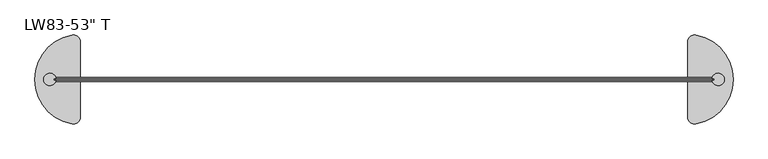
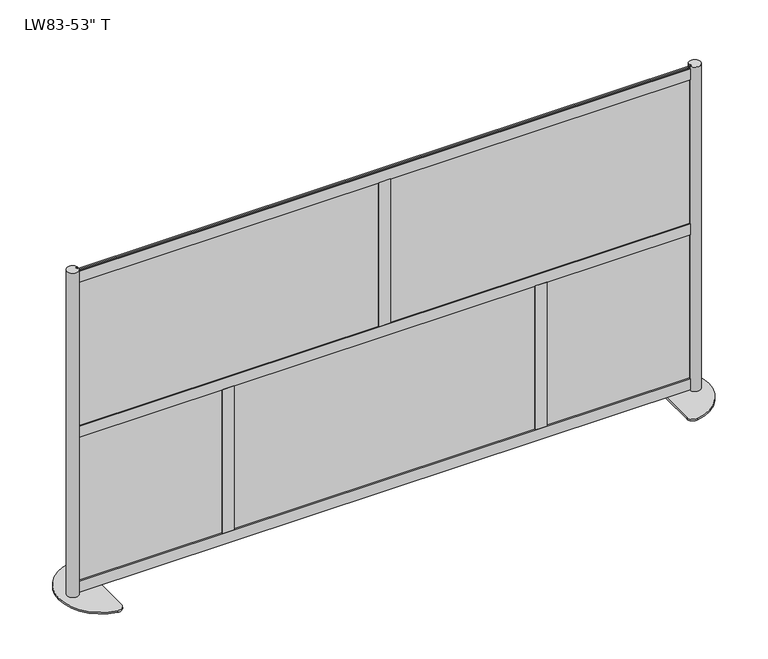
"""IFC4 building model written with IfcOpenShell, lengths in millimetres: furniture geometry."""

from ifc_helpers import new_model, si_unit, point, frame, frame_2d, origin, origin_with_axes, place, context, project, spatial, polyline, circle_curve, trimmed, segment, composite_curve, outline, extrude, source, transform, mapped, element, save


def furniture_a3e9a44e(model_context):
    return source(origin(), model_context, "Body", "SweptSolid", [
        extrude(outline(polyline([(596.8955274, -1.5875), (-592.1419726, -1.5875), (-592.1419726, 1.5875), (596.8955274, 1.5875), (596.8955274, -1.5875)])), frame((0.0, 0.0, 49.2633), z_axis=(0.0, 0.0, 1.0), x_axis=(1.0, 0.0, 0.0)), (0.0, 0.0, 1.0), 608.965),
        extrude(outline(polyline([(1208.4321897, -1.5875), (19.3946897, -1.5875), (19.3946897, 1.5875), (1208.4321897, 1.5875), (1208.4321897, -1.5875)])), frame((0.0, 0.0, 689.2671), z_axis=(0.0, 0.0, 1.0), x_axis=(1.0, 0.0, 0.0)), (0.0, 0.0, 1.0), 608.965),
        extrude(outline(polyline([(-14.6411349, -1.5875), (-1203.6786349, -1.5875), (-1203.6786349, 1.5875), (-14.6411349, 1.5875), (-14.6411349, -1.5875)])), frame((0.0, 0.0, 689.2671), z_axis=(0.0, 0.0, 1.0), x_axis=(1.0, 0.0, 0.0)), (0.0, 0.0, 1.0), 608.965),
        extrude(outline(polyline([(625.9190822, 1.5875), (1203.769083, 1.5875), (1203.7689093, -1.5875), (625.9189085, -1.5875), (625.9190822, 1.5875)])), frame((0.0, 0.0, 49.2633), z_axis=(0.0, 0.0, 1.0), x_axis=(1.0, 0.0, 0.0)), (0.0, 0.0, 1.0), 608.965),
        extrude(outline(polyline([(-1202.9125801, 1.5875), (-625.0625793, 1.5875), (-625.0627529, -1.5875), (-1202.9127538, -1.5875), (-1202.9125801, 1.5875)])), frame((0.0, 0.0, 49.2633), z_axis=(0.0, 0.0, 1.0), x_axis=(1.0, 0.0, 0.0)), (0.0, 0.0, 1.0), 608.965),
        extrude(outline(polyline([(22.6314, 3.556), (15.5194, 3.556), (15.5194, -3.556), (22.6314, -3.556), (22.6314, -7.6327), (-22.6314, -7.6327), (-22.6314, -3.556), (-15.5194, -3.556), (-15.5194, 3.556), (-22.6314, 3.556), (-22.6314, 7.6327), (22.6314, 7.6327), (22.6314, 3.556)])), frame((0.0, 0.0, 696.3791), z_axis=(0.0, 0.0, 1.0), x_axis=(1.0, 0.0, 0.0)), (0.0, 0.0, 1.0), 594.741),
        extrude(outline(polyline([(634.1680623, 3.556), (627.0560623, 3.556), (627.0560623, -3.556), (634.1680623, -3.556), (634.1680623, -7.6327), (588.9052623, -7.6327), (588.9052623, -3.556), (596.0172623, -3.556), (596.0172623, 3.556), (588.9052623, 3.556), (588.9052623, 7.6327), (634.1680623, 7.6327), (634.1680623, 3.556)])), frame((0.0, 0.0, 56.3753), z_axis=(0.0, 0.0, 1.0), x_axis=(1.0, 0.0, 0.0)), (0.0, 0.0, 1.0), 594.741),
        extrude(outline(polyline([(-634.1680623, 3.556), (-634.1680623, 7.6327), (-588.9052623, 7.6327), (-588.9052623, 3.556), (-596.0172623, 3.556), (-596.0172623, -3.556), (-588.9052623, -3.556), (-588.9052623, -7.6327), (-634.1680623, -7.6327), (-634.1680623, -3.556), (-627.0560623, -3.556), (-627.0560623, 3.556), (-634.1680623, 3.556)])), frame((0.0, 0.0, 56.3753), z_axis=(0.0, 0.0, 1.0), x_axis=(1.0, 0.0, 0.0)), (0.0, 0.0, 1.0), 594.741),
        extrude(outline(polyline([(3.556, 651.1163), (3.556, 658.2283), (-3.556, 658.2283), (-3.556, 651.1163), (-7.6327, 651.1163), (-7.6327, 696.3791), (-3.556, 696.3791), (-3.556, 689.2671), (3.556, 689.2671), (3.556, 696.3791), (7.6327, 696.3791), (7.6327, 651.1163), (3.556, 651.1163)])), frame((-1194.5874, 0.0, 0.0), z_axis=(1.0, 0.0, 0.0), x_axis=(0.0, 1.0, 0.0)), (0.0, 0.0, 1.0), 2389.1748),
        extrude(outline(polyline([(3.556, 11.1125), (3.556, 18.2245), (-3.556, 18.2245), (-3.556, 11.1125), (-7.6327, 11.1125), (-7.6327, 56.3753), (-3.556, 56.3753), (-3.556, 49.2633), (3.556, 49.2633), (3.556, 56.3753), (7.6327, 56.3753), (7.6327, 11.1125), (3.556, 11.1125)])), frame((-1194.6636, 0.0, 0.0), z_axis=(1.0, 0.0, 0.0), x_axis=(0.0, 1.0, 0.0)), (0.0, 0.0, 1.0), 2389.3272),
        extrude(outline(polyline([(3.556, 1291.1200292), (3.556, 1298.2320292), (-3.556, 1298.2320292), (-3.556, 1291.1200292), (-7.6327, 1291.1200292), (-7.6327, 1336.3828292), (-3.556, 1336.3828292), (-3.556, 1329.2708292), (3.556, 1329.2708292), (3.556, 1336.3828292), (7.6327, 1336.3828292), (7.6327, 1291.1200292), (3.556, 1291.1200292)])), frame((-1194.6636, 0.0, 0.0), z_axis=(1.0, 0.0, 0.0), x_axis=(0.0, 1.0, 0.0)), (0.0, 0.0, 1.0), 2389.3272),
        extrude(outline(composite_curve([segment(polyline([(1194.6636, -7.7568093), (1194.6636, -3.556), (1201.7756, -3.556), (1201.7756, 3.556), (1194.6636, 3.556), (1194.6636, 7.7568093)]), True, "CONTINUOUS"), segment(trimmed(circle_curve(frame_2d((1215.7665837, 0.0)), 22.4834163), [point((1194.6636, 7.7568093))], [point((1194.6636, -7.7568093))], False, "CARTESIAN"), True, "CONTINUOUS")], self_intersect=False)), frame((0.0, 0.0, 6.35), z_axis=(0.0, 0.0, 1.0), x_axis=(1.0, 0.0, 0.0)), (0.0, 0.0, 1.0), 1339.85),
        extrude(outline(composite_curve([segment(polyline([(1104.9, -137.3715036), (1104.9, 137.3715036)]), True, "CONTINUOUS"), segment(trimmed(circle_curve(frame_2d((1130.3, 137.3715036)), 25.4), [point((1104.9, 137.3715036))], [point((1134.9181818, 162.3481406))], False, "CARTESIAN"), True, "CONTINUOUS"), segment(trimmed(circle_curve(frame_2d((1104.9, 0.0)), 165.1), [point((1134.9181818, 162.3481406))], [point((1270.0, 0.0))], False, "CARTESIAN"), True, "CONTINUOUS"), segment(trimmed(circle_curve(frame_2d((1104.9, 0.0)), 165.1), [point((1270.0, 0.0))], [point((1134.9181818, -162.3481406))], False, "CARTESIAN"), True, "CONTINUOUS"), segment(trimmed(circle_curve(frame_2d((1130.3, -137.3715036)), 25.4), [point((1134.9181818, -162.3481406))], [point((1104.9, -137.3715036))], False, "CARTESIAN"), True, "CONTINUOUS")], self_intersect=False)), origin_with_axes(), (0.0, 0.0, 1.0), 6.35),
        extrude(outline(composite_curve([segment(trimmed(circle_curve(frame_2d((-1215.7665837, 0.0)), 22.4834163), [point((-1194.6636, -7.7568093))], [point((-1194.6636, 7.7568093))], False, "CARTESIAN"), True, "CONTINUOUS"), segment(polyline([(-1194.6636, 7.7568093), (-1194.6636, 3.556), (-1201.7756, 3.556), (-1201.7756, -3.556), (-1194.6636, -3.556), (-1194.6636, -7.7568093)]), True, "CONTINUOUS")], self_intersect=False)), frame((0.0, 0.0, 6.35), z_axis=(0.0, 0.0, 1.0), x_axis=(1.0, 0.0, 0.0)), (0.0, 0.0, 1.0), 1339.85),
        extrude(outline(composite_curve([segment(trimmed(circle_curve(frame_2d((-1130.3, -137.3715036)), 25.4), [point((-1104.9, -137.3715036))], [point((-1134.9181818, -162.3481406))], False, "CARTESIAN"), True, "CONTINUOUS"), segment(trimmed(circle_curve(frame_2d((-1104.9, 0.0)), 165.1), [point((-1134.9181818, -162.3481406))], [point((-1270.0, 0.0))], False, "CARTESIAN"), True, "CONTINUOUS"), segment(trimmed(circle_curve(frame_2d((-1104.9, 0.0)), 165.1), [point((-1270.0, 0.0))], [point((-1134.9181818, 162.3481406))], False, "CARTESIAN"), True, "CONTINUOUS"), segment(trimmed(circle_curve(frame_2d((-1130.3, 137.3715036)), 25.4), [point((-1134.9181818, 162.3481406))], [point((-1104.9, 137.3715036))], False, "CARTESIAN"), True, "CONTINUOUS"), segment(polyline([(-1104.9, 137.3715036), (-1104.9, -137.3715036)]), True, "CONTINUOUS")], self_intersect=False)), origin_with_axes(), (0.0, 0.0, 1.0), 6.35),
    ])


if __name__ == "__main__":
    model = new_model("IFC4")
    model_context = context("Model", 3, world=origin())
    ifc_project = project(units=[si_unit("LENGTHUNIT", "METRE", prefix="MILLI")], contexts=[model_context])
    site = spatial("IfcSite", under=ifc_project)
    building = spatial("IfcBuilding", under=site)
    placement = place(None, origin())
    furniture_shape = furniture_a3e9a44e(model_context)
    element("IfcFurniture", 1, ObjectType="Loft_Wall-Framewall-100 : LW83-53\" T", at=placement, inside=building, context=model_context, shape_type="MappedRepresentation", body=[
        mapped(furniture_shape, transform((0.0, 0.0, 0.0), x_axis=(1.0, 0.0, 0.0), y_axis=(0.0, 1.0, 0.0), z_axis=(0.0, 0.0, 1.0))),
    ])
    save(model, "model.ifc")
